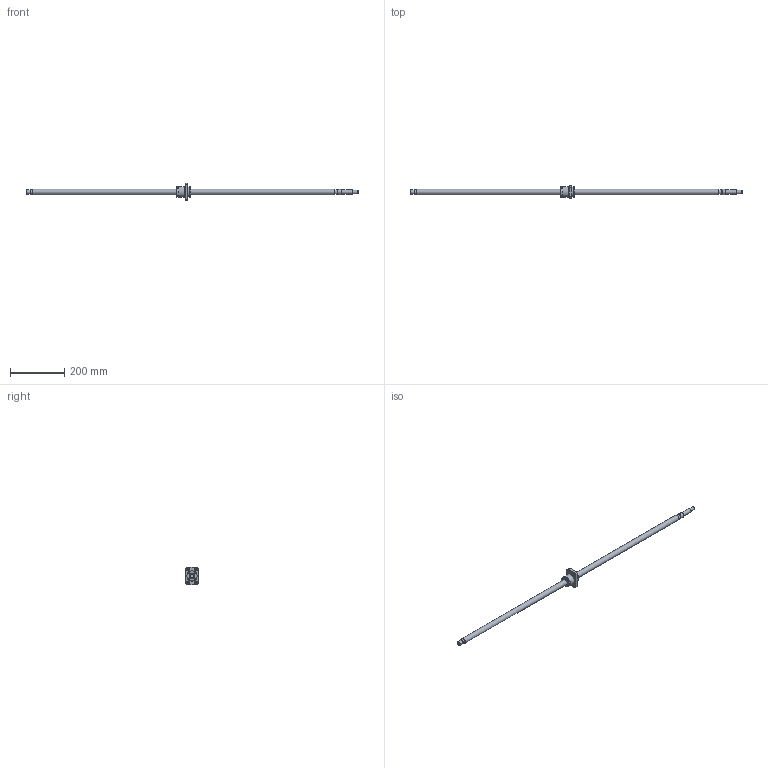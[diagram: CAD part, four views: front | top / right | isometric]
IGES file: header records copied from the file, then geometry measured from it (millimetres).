
Start section: Data from Parasolid IGES Translator 26.0.171, Copyright(c) 2006 Siemens PLM Software. All Rights Reserved.
Global section: file name: BNK2020-3.6G0+1220LC5Y(5810).igs; native system: By Siemens PLM Incorporated; preprocessor: XPlus GENERIC/IGES 26.0.171; author: Noname; organization: Noname; date: 20240709.094039; units: millimetre
Bounding box: 1220 x 46 x 66 mm (x, y, z)
Surface area: 93347.4 mm2 (no closed solid volume)
Topology: 0 solids, 0 shells, 139 faces, 643 edges, 578 vertices
Faces by surface type: extrusion 75, revolution 64
